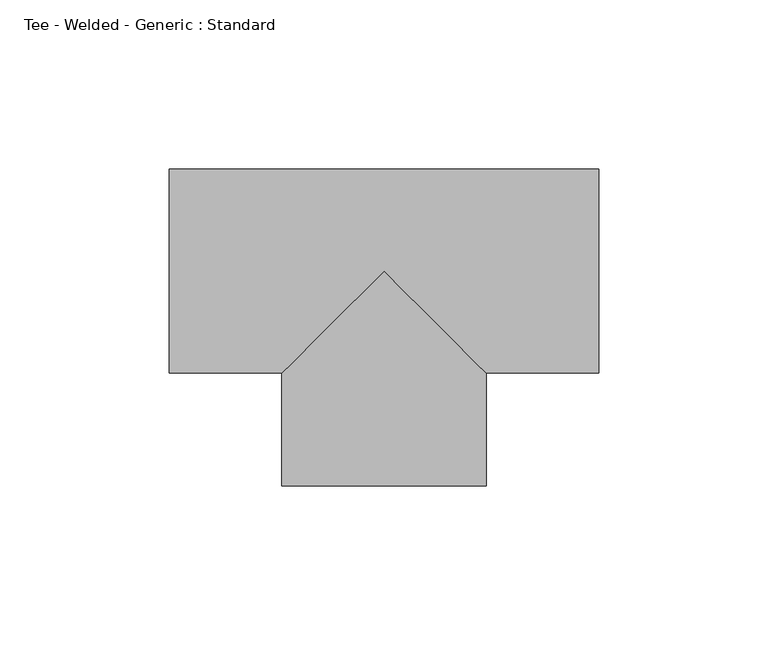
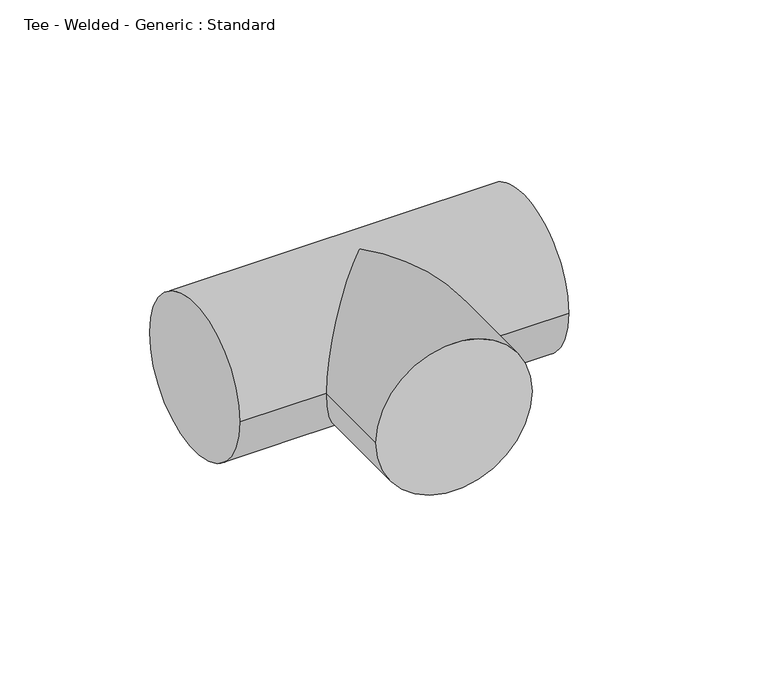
"""IFC4 building model written with IfcOpenShell, lengths in millimetres: pipe fitting geometry, Tee - Welded - Generic : Standard."""

from ifc_helpers import new_model, si_unit, frame, origin, place, context, project, spatial, circle_curve, ellipse_curve, source, transform, mapped, element, save
from ifc_brep_helpers import plane_surface, cylinder_surface, advanced_brep


def tee_welded_generic_standard_cb23a0b2(model_context):
    return source(origin(), model_context, "Body", "AdvancedBrep", [
        advanced_brep(
        [(-63.5, -30.1625, 0.0), (-63.5, 30.1625, 0.0), (63.5, -30.1625, 0.0), (63.5, 30.1625, 0.0), (-30.1669917, -30.1625, 0.0), (0.0, 0.0, 30.1625), (30.1580089, -30.1625, 0.0), (0.0, 0.0, -30.1625), (-30.1719553, -63.4955079, 0.0), (30.1530441, -63.5044907, 0.0)],
        [
            (0, 1, circle_curve(frame((-63.5, 0.0, 0.0), z_axis=(-1.0, 0.0, 0.0), x_axis=(0.0, 1.0, 0.0)), 30.1625)),
            (1, 0, circle_curve(frame((-63.5, 0.0, 0.0), z_axis=(-1.0, 0.0, 0.0), x_axis=(0.0, 1.0, 0.0)), 30.1625)),
            (2, 3, circle_curve(frame((63.5, 0.0, 0.0), z_axis=(1.0, 0.0, 0.0), x_axis=(0.0, 1.0, 0.0)), 30.1625)),
            (3, 2, circle_curve(frame((63.5, 0.0, 0.0), z_axis=(1.0, 0.0, 0.0), x_axis=(0.0, 1.0, 0.0)), 30.1625)),
            (0, 4),
            (4, 5, ellipse_curve(frame((0.0, 0.0, 0.0), z_axis=(-0.7070541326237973, 0.7071594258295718, 0.0), x_axis=(-0.7071594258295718, -0.7070541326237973, 0.0)), 42.6593928, 30.1625)),
            (5, 6, ellipse_curve(frame((0.0, 0.0, 0.0), z_axis=(0.7071594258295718, 0.7070541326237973, 0.0), x_axis=(-0.7070541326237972, 0.7071594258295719, 0.0)), 42.653041, 30.1625)),
            (6, 2),
            (3, 1),
            (6, 7, ellipse_curve(frame((0.0, 0.0, 0.0), z_axis=(0.7071594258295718, 0.7070541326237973, 0.0), x_axis=(-0.7070541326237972, 0.7071594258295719, 0.0)), 42.653041, 30.1625)),
            (7, 4, ellipse_curve(frame((0.0, 0.0, 0.0), z_axis=(-0.7070541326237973, 0.7071594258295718, 0.0), x_axis=(-0.7071594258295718, -0.7070541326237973, 0.0)), 42.6593928, 30.1625)),
            (8, 9, circle_curve(frame((-0.0094556, -63.4999993, 0.0), z_axis=(-0.00014890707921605, -0.9999999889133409, 0.0), x_axis=(0.9999999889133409, -0.00014890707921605, 0.0)), 30.1625)),
            (9, 8, circle_curve(frame((-0.0094556, -63.4999993, 0.0), z_axis=(-0.00014890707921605, -0.9999999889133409, 0.0), x_axis=(0.9999999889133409, -0.00014890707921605, 0.0)), 30.1625)),
            (9, 6),
            (4, 8),
        ],
        [
            plane_surface(frame((-63.5, 0.0, 0.0), z_axis=(-1.0, 0.0, 0.0), x_axis=(0.0, 0.0, 1.0))),
            plane_surface(frame((63.5, 0.0, 0.0), z_axis=(1.0, 0.0, 0.0), x_axis=(0.0, 0.0, 1.0))),
            cylinder_surface(frame((-63.5, 0.0, 0.0), z_axis=(-1.0, 0.0, 0.0), x_axis=(0.0, 1.0, 0.0)), 30.1625),
            plane_surface(frame((-0.0094556, -63.4999993, 0.0), z_axis=(-0.00014890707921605, -0.9999999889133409, 0.0), x_axis=(0.0, 0.0, 1.0))),
            cylinder_surface(frame((0.0, 0.0, 0.0), z_axis=(0.00014890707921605, 0.9999999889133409, 0.0), x_axis=(0.9999999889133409, -0.00014890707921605, 0.0)), 30.1625),
        ],
        [
            (0, [[1, 2]]),
            (1, [[3, 4]]),
            (2, [[-1, 5, 6, 7, 8, -4, 9]]),
            (2, [[-2, -9, -3, -8, 10, 11, -5]]),
            (3, [[12, 13]]),
            (4, [[-13, 14, -7, -6, 15]]),
            (4, [[-12, -15, -11, -10, -14]]),
        ],
    ),
    ])


if __name__ == "__main__":
    model = new_model("IFC4")
    model_context = context("Model", 3, world=origin())
    ifc_project = project(units=[si_unit("LENGTHUNIT", "METRE", prefix="MILLI")], contexts=[model_context])
    site = spatial("IfcSite", under=ifc_project)
    building = spatial("IfcBuilding", under=site)
    placement = place(None, origin())
    tee_welded_generic_standard_shape = tee_welded_generic_standard_cb23a0b2(model_context)
    element("IfcPipeFitting", 1, ObjectType="Tee - Welded - Generic : Standard", at=placement, inside=building, context=model_context, shape_type="MappedRepresentation", body=[
        mapped(tee_welded_generic_standard_shape, transform((0.0, 0.0, 0.0), x_axis=(1.0, 0.0, 0.0), y_axis=(0.0, 1.0, 0.0), z_axis=(0.0, 0.0, 1.0))),
    ])
    save(model, "model.ifc")
